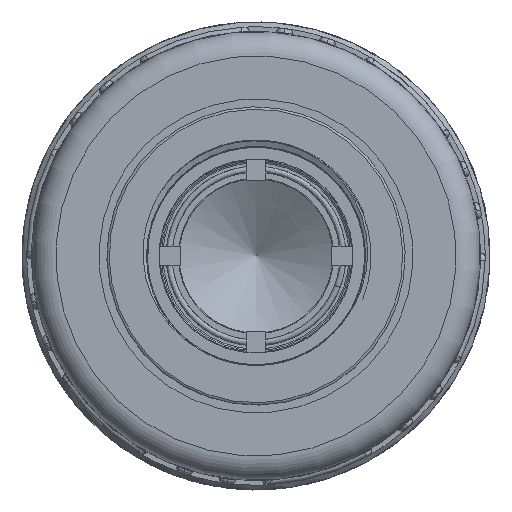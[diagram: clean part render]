
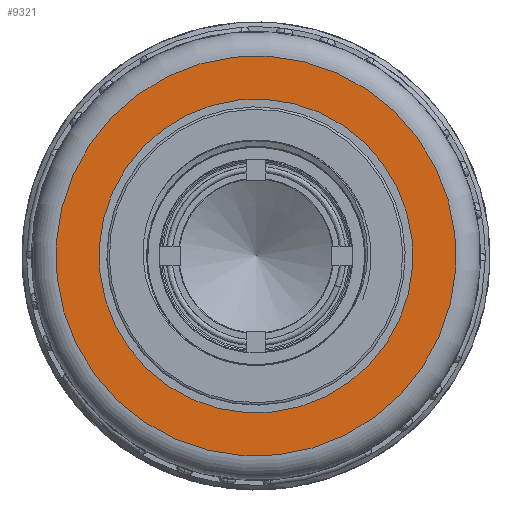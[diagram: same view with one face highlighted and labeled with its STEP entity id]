
A CAD part, front view. The second image highlights one B-rep face of the part: STEP entity #9321.
In plain terms, the highlighted planar face has unit normal (0, -1, 0).
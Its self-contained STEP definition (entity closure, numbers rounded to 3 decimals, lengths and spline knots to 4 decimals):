
#1641=PLANE('',#10000);
#1838=FACE_BOUND('',#2708,.T.);
#2128=FACE_OUTER_BOUND('',#2707,.T.);
#2707=EDGE_LOOP('',(#6687));
#2708=EDGE_LOOP('',(#6688));
#3318=CIRCLE('',#10001,4.125);
#3319=CIRCLE('',#10002,3.235);
#3919=VERTEX_POINT('',#39362);
#3920=VERTEX_POINT('',#39364);
#4955=EDGE_CURVE('',#3919,#3919,#3318,.T.);
#4956=EDGE_CURVE('',#3920,#3920,#3319,.T.);
#6687=ORIENTED_EDGE('',*,*,#4955,.F.);
#6688=ORIENTED_EDGE('',*,*,#4956,.T.);
#9321=ADVANCED_FACE('',(#2128,#1838),#1641,.T.);
#10000=AXIS2_PLACEMENT_3D('',#39361,#11415,#11416);
#10001=AXIS2_PLACEMENT_3D('',#39363,#11417,#11418);
#10002=AXIS2_PLACEMENT_3D('',#39365,#11419,#11420);
#11415=DIRECTION('center_axis',(0.,-1.,0.));
#11416=DIRECTION('ref_axis',(-0.722,0.,0.691));
#11417=DIRECTION('center_axis',(0.,1.,0.));
#11418=DIRECTION('ref_axis',(-0.691,0.,-0.722));
#11419=DIRECTION('center_axis',(0.,1.,0.));
#11420=DIRECTION('ref_axis',(-0.691,0.,-0.722));
#39361=CARTESIAN_POINT('Origin',(2.8523,-5.,2.9799));
#39362=CARTESIAN_POINT('',(2.8523,-5.,2.9799));
#39363=CARTESIAN_POINT('Origin',(0.,-5.,0.));
#39364=CARTESIAN_POINT('',(2.2369,-5.,2.337));
#39365=CARTESIAN_POINT('Origin',(0.,-5.,0.));
